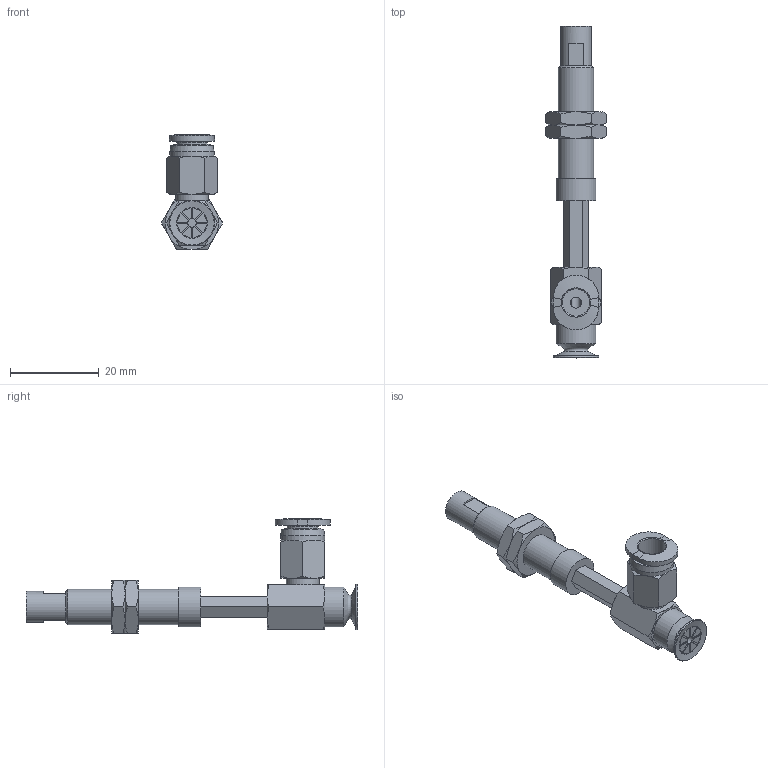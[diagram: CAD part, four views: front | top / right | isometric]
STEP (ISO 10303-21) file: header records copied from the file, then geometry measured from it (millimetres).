
FILE_DESCRIPTION(('STEP AP203'),'1');
FILE_NAME('-O.stp','2025-03-13T02:59:48',(' '),(' '),'Spatial InterOp 3D',' ',' ');
FILE_SCHEMA(('CONFIG_CONTROL_DESIGN'));
Length unit declared in the file: millimetre
Products named in the file (7): BNABPAYH-10B-15-※-O; NAPAYH-10B-15--M; NAPAYH-10B-15--F; Nut-10A-S; CONNECTOR-10B-15-PA; PC-C_06-M5; BPAG-10B-※
Assembly tree (7 placements, depth 2):
  BNABPAYH-10B-15-※-O
    NAPAYH-10B-15--M
    NAPAYH-10B-15--F
    Nut-10A-S  x2
    CONNECTOR-10B-15-PA
    PC-C_06-M5
    BPAG-10B-※
Bounding box: 13.86 x 75 x 25.98 mm (x, y, z)
Volume: 4767.3 mm3; surface area: 5971.7 mm2
Topology: 7 solids, 7 shells, 224 faces, 500 edges, 308 vertices
Faces by surface type: plane 104, cone 67, cylinder 33, torus 13, bspline 4, revolution 3
Full cylindrical faces by diameter (mm): 2 x2, 4 x4, 4.134 x2, 5 x2, 6 x2, 7 x3, 7.188 x2, 7.4 x1, 8 x1, 8.2 x1, 9 x2, 10 x1
Entity records: 6062 total; most frequent: CARTESIAN_POINT 1578, DIRECTION 855, ORIENTED_EDGE 780, EDGE_CURVE 390, AXIS2_PLACEMENT_3D 349, EDGE_LOOP 280, VERTEX_POINT 270, FACE_OUTER_BOUND 236
